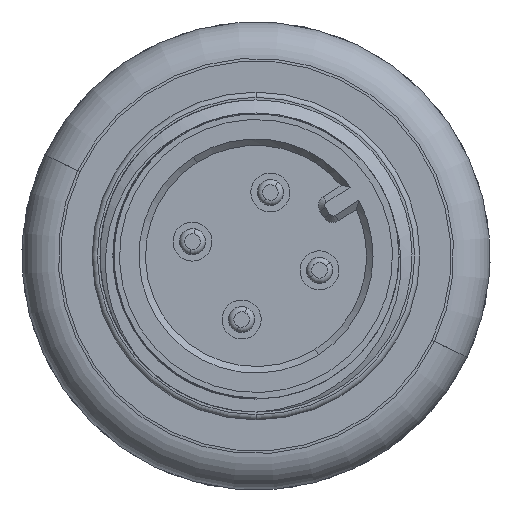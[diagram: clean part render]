
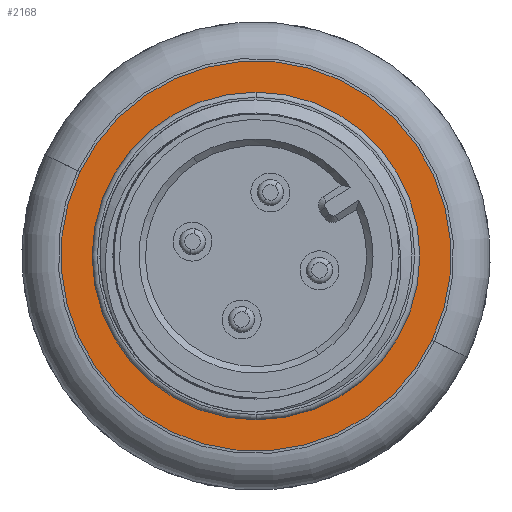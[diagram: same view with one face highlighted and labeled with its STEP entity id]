
A CAD part, left-side view. The second image highlights one B-rep face of the part: STEP entity #2168.
In plain terms, the highlighted planar face has unit normal (-1, 0, 0) as drawn and (0, 1, 0) by its records, which use the part's own axes.
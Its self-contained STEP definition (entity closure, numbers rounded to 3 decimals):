
#393 = DIRECTION ( 'NONE',  ( 1., 0., 0. ) ) ;
#546 = ORIENTED_EDGE ( 'NONE', *, *, #1531, .F. ) ;
#547 = AXIS2_PLACEMENT_3D ( 'NONE', #2544, #5303, #3582 ) ;
#560 = ORIENTED_EDGE ( 'NONE', *, *, #792, .F. ) ;
#625 = DIRECTION ( 'NONE',  ( 0., -1., 0. ) ) ;
#792 = EDGE_CURVE ( 'NONE', #4141, #1262, #2051, .T. ) ;
#885 = EDGE_LOOP ( 'NONE', ( #1793, #3461 ) ) ;
#1262 = VERTEX_POINT ( 'NONE', #2911 ) ;
#1312 = PLANE ( 'NONE',  #1333 ) ;
#1333 = AXIS2_PLACEMENT_3D ( 'NONE', #4493, #3115, #393 ) ;
#1340 = DIRECTION ( 'NONE',  ( 0., 0., -1. ) ) ;
#1451 = AXIS2_PLACEMENT_3D ( 'NONE', #4393, #4881, #5332 ) ;
#1531 = EDGE_CURVE ( 'NONE', #1262, #4141, #4434, .T. ) ;
#1644 = CARTESIAN_POINT ( 'NONE',  ( 0., 38.6, 6. ) ) ;
#1793 = ORIENTED_EDGE ( 'NONE', *, *, #2483, .T. ) ;
#1859 = CIRCLE ( 'NONE', #3450, 6. ) ;
#2004 = CARTESIAN_POINT ( 'NONE',  ( 0., 38.6, -7.5 ) ) ;
#2051 = CIRCLE ( 'NONE', #1451, 7.5 ) ;
#2168 = ADVANCED_FACE ( 'NONE', ( #3622, #2971 ), #1312, .T. ) ;
#2483 = EDGE_CURVE ( 'NONE', #3683, #2873, #2765, .T. ) ;
#2515 = DIRECTION ( 'NONE',  ( 0., 0., -1. ) ) ;
#2544 = CARTESIAN_POINT ( 'NONE',  ( 0., 38.6, 0. ) ) ;
#2723 = DIRECTION ( 'NONE',  ( 0., -1., 0. ) ) ;
#2765 = CIRCLE ( 'NONE', #3825, 6. ) ;
#2834 = CARTESIAN_POINT ( 'NONE',  ( 0., 38.6, 0. ) ) ;
#2873 = VERTEX_POINT ( 'NONE', #1644 ) ;
#2911 = CARTESIAN_POINT ( 'NONE',  ( 0., 38.6, 7.5 ) ) ;
#2953 = CARTESIAN_POINT ( 'NONE',  ( 0., 38.6, 0. ) ) ;
#2971 = FACE_OUTER_BOUND ( 'NONE', #3770, .T. ) ;
#3115 = DIRECTION ( 'NONE',  ( 0., 1., 0. ) ) ;
#3450 = AXIS2_PLACEMENT_3D ( 'NONE', #2953, #625, #2515 ) ;
#3461 = ORIENTED_EDGE ( 'NONE', *, *, #5126, .T. ) ;
#3582 = DIRECTION ( 'NONE',  ( 0., 0., -1. ) ) ;
#3622 = FACE_BOUND ( 'NONE', #885, .T. ) ;
#3683 = VERTEX_POINT ( 'NONE', #4875 ) ;
#3770 = EDGE_LOOP ( 'NONE', ( #560, #546 ) ) ;
#3825 = AXIS2_PLACEMENT_3D ( 'NONE', #2834, #2723, #1340 ) ;
#4141 = VERTEX_POINT ( 'NONE', #2004 ) ;
#4393 = CARTESIAN_POINT ( 'NONE',  ( 0., 38.6, 0. ) ) ;
#4434 = CIRCLE ( 'NONE', #547, 7.5 ) ;
#4493 = CARTESIAN_POINT ( 'NONE',  ( 0., 38.6, -7.5 ) ) ;
#4875 = CARTESIAN_POINT ( 'NONE',  ( 0., 38.6, -6. ) ) ;
#4881 = DIRECTION ( 'NONE',  ( 0., -1., 0. ) ) ;
#5126 = EDGE_CURVE ( 'NONE', #2873, #3683, #1859, .T. ) ;
#5303 = DIRECTION ( 'NONE',  ( 0., -1., 0. ) ) ;
#5332 = DIRECTION ( 'NONE',  ( 0., 0., -1. ) ) ;
